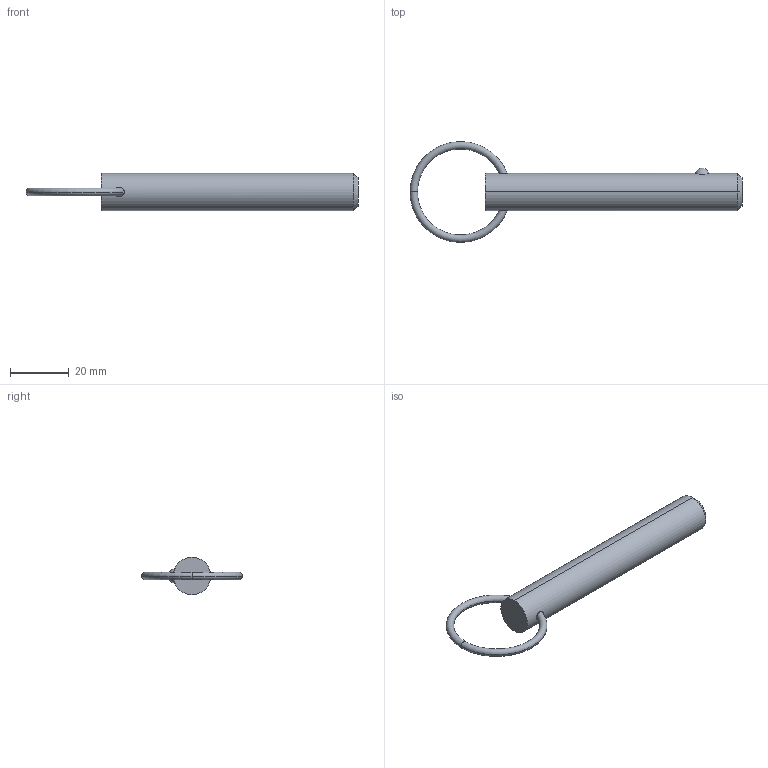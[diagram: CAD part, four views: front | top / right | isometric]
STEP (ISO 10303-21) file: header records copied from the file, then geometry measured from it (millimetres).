
FILE_DESCRIPTION (( 'STEP AP203' ), '1' );
FILE_NAME ('33012.W5025.step', '2024-11-01T14:13:06', ( '' ), ( '' ), 'SwSTEP 2.0', 'SolidWorks 2019', '' );
FILE_SCHEMA (( 'CONFIG_CONTROL_DESIGN' ));
Length unit declared in the file: millimetre
Products named in the file (3): Part1_33012.W5025; 33012.W5025; Part2_33012.W5025
Assembly tree (2 placements, depth 2):
  33012.W5025
    Part1_33012.W5025
    Part2_33012.W5025
Bounding box: 112.79 x 34.29 x 12.7 mm (x, y, z)
Volume: 11435.7 mm3; surface area: 4615.3 mm2
Topology: 2 solids, 2 shells, 16 faces, 31 edges, 18 vertices
Faces by surface type: torus 8, sphere 2, cone 2, cylinder 2, plane 2
Entity records: 885 total; most frequent: CARTESIAN_POINT 242, DIRECTION 88, ORIENTED_EDGE 62, AXIS2_PLACEMENT_3D 42, EDGE_CURVE 31, PERSON_AND_ORGANIZATION 26, CIRCLE 21, COORDINATED_UNIVERSAL_TIME_OFFSET 19
